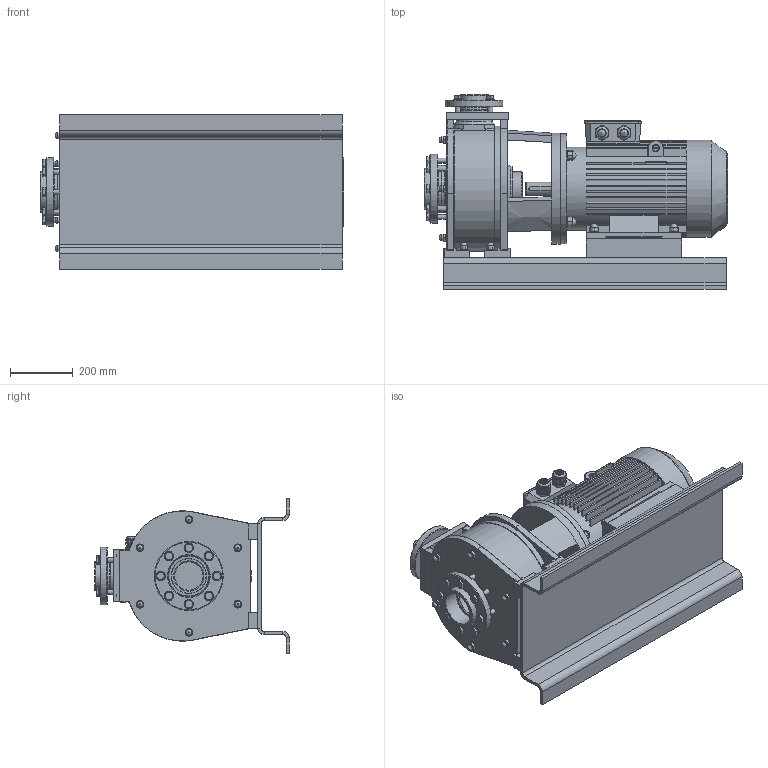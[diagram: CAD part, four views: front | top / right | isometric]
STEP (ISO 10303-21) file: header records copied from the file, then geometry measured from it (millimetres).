
FILE_DESCRIPTION(/* description */ (''),/* implementation_level */ '2;1');
FILE_NAME(/* name */ 'C:\Users\tarpo\OneDrive\Masaüstü\Pompalar Resimler ve Cad Dosyalar\420 BM 110-215-75\PP.420 BM.stp',/* time_stamp */ '2024-07-12T15:42:01+03:00',/* author */ ('tarpo'),/* organization */ (''),/* preprocessor_version */ 'ST-DEVELOPER v18',/* originating_system */ 'Autodesk Inventor 2020',/* authorisation */ '');
FILE_SCHEMA (('CONFIG_CONTROL_DESIGN'));
Products named in the file (1): PP.420 BM_Shrinkwrap_1
Bounding box: 967.69 x 620.3 x 494 mm (x, y, z)
Volume: 72433409.6 mm3; surface area: 5257953 mm2
Topology: 73 solids, 73 shells, 2567 faces, 6223 edges, 3931 vertices
Faces by surface type: plane 1370, cylinder 584, cone 299, torus 183, sphere 96, bspline 35
Full cylindrical faces by diameter (mm): 9.84 x4, 11 x6, 11.66 x6, 12 x6, 13.16 x6, 15.8 x4, 16 x12, 16.7 x4, 17 x10, 19 x6, 20 x2, 23.6 x4, 23.8 x6, 24 x12, 25 x2, 27.5 x4, 29.8 x4, 30 x18, 35 x10, 35.5 x8, 37 x8, 37.4 x12, 40.5 x2, 42 x1, 67.5 x1, 72 x1, 75.3 x1, 81 x1, 85.6 x1, 89.578 x1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
Entity records: 107283 total; most frequent: CARTESIAN_POINT 44412, DIRECTION 12846, ORIENTED_EDGE 12264, EDGE_CURVE 6132, AXIS2_PLACEMENT_3D 4840, VERTEX_POINT 3931, LINE 3166, VECTOR 3166
